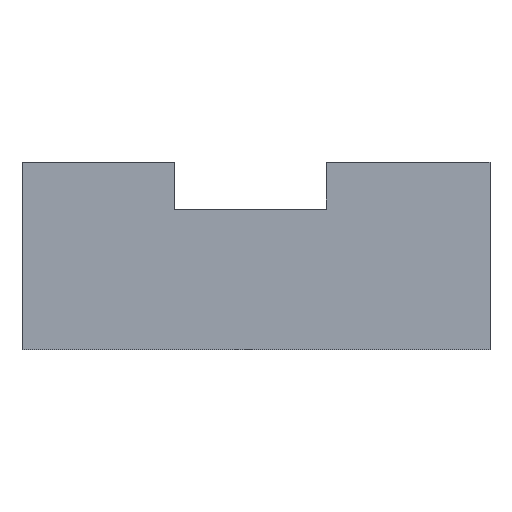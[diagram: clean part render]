
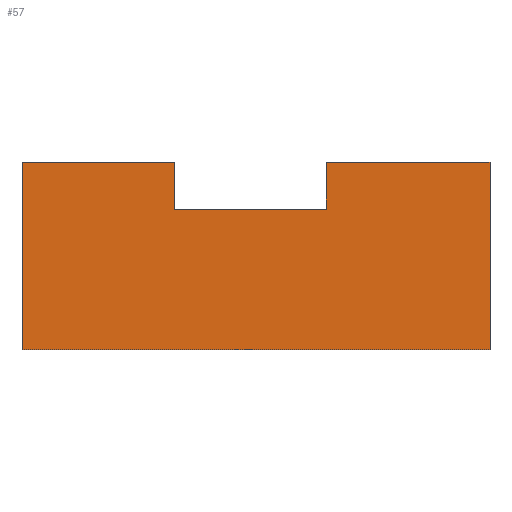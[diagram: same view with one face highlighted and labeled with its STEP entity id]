
A CAD part, top view. The second image highlights one B-rep face of the part: STEP entity #57.
In plain terms, the highlighted planar face has unit normal (0, 0, 1).
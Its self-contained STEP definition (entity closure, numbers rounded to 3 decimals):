
#57=ADVANCED_FACE('',(#75),#76,.T.);
#75=FACE_OUTER_BOUND('',#96,.T.);
#76=PLANE('',#97);
#96=EDGE_LOOP('',(#147,#148,#149,#150,#151,#152,#153,#154));
#97=AXIS2_PLACEMENT_3D('',#155,#156,#157);
#147=ORIENTED_EDGE('',*,*,#203,.T.);
#148=ORIENTED_EDGE('',*,*,#204,.T.);
#149=ORIENTED_EDGE('',*,*,#190,.F.);
#150=ORIENTED_EDGE('',*,*,#187,.T.);
#151=ORIENTED_EDGE('',*,*,#192,.T.);
#152=ORIENTED_EDGE('',*,*,#199,.T.);
#153=ORIENTED_EDGE('',*,*,#195,.F.);
#154=ORIENTED_EDGE('',*,*,#201,.T.);
#155=CARTESIAN_POINT('',(40.,22.0,5.));
#156=DIRECTION('',(0.,0.,1.0));
#157=DIRECTION('',(-1.0,0.,0.));
#187=EDGE_CURVE('',#209,#213,#215,.T.);
#190=EDGE_CURVE('',#209,#216,#220,.T.);
#192=EDGE_CURVE('',#213,#222,#224,.T.);
#195=EDGE_CURVE('',#227,#229,#230,.T.);
#199=EDGE_CURVE('',#222,#229,#235,.T.);
#201=EDGE_CURVE('',#227,#237,#239,.T.);
#203=EDGE_CURVE('',#237,#241,#242,.T.);
#204=EDGE_CURVE('',#241,#216,#243,.T.);
#209=VERTEX_POINT('',#249);
#213=VERTEX_POINT('',#255);
#215=LINE('',#258,#259);
#216=VERTEX_POINT('',#260);
#220=LINE('',#266,#267);
#222=VERTEX_POINT('',#269);
#224=LINE('',#272,#273);
#227=VERTEX_POINT('',#277);
#229=VERTEX_POINT('',#280);
#230=LINE('',#281,#282);
#235=LINE('',#290,#291);
#237=VERTEX_POINT('',#293);
#239=LINE('',#296,#297);
#241=VERTEX_POINT('',#300);
#242=LINE('',#301,#302);
#243=LINE('',#303,#304);
#249=CARTESIAN_POINT('',(27.,34.0,5.));
#255=CARTESIAN_POINT('',(14.0,34.0,5.));
#258=CARTESIAN_POINT('',(27.,34.0,5.));
#259=VECTOR('',#315,1.0);
#260=CARTESIAN_POINT('',(27.,38.0,5.));
#266=CARTESIAN_POINT('',(27.,36.0,5.));
#267=VECTOR('',#318,0.13);
#269=CARTESIAN_POINT('',(14.0,38.0,5.));
#272=CARTESIAN_POINT('',(14.0,36.0,5.));
#273=VECTOR('',#320,0.13);
#277=CARTESIAN_POINT('',(1.,22.0,5.));
#280=CARTESIAN_POINT('',(1.,38.0,5.));
#281=CARTESIAN_POINT('',(1.,36.0,5.));
#282=VECTOR('',#323,0.13);
#290=CARTESIAN_POINT('',(14.0,38.0,5.));
#291=VECTOR('',#327,1.);
#293=CARTESIAN_POINT('',(41.,22.0,5.));
#296=CARTESIAN_POINT('',(17.25,22.0,5.));
#297=VECTOR('',#329,1.0);
#300=CARTESIAN_POINT('',(41.,38.0,5.));
#301=CARTESIAN_POINT('',(41.,38.0,5.));
#302=VECTOR('',#331,1.0);
#303=CARTESIAN_POINT('',(40.,38.0,5.));
#304=VECTOR('',#332,1.0);
#315=DIRECTION('',(-1.0,0.,0.));
#318=DIRECTION('',(0.,1.0,0.));
#320=DIRECTION('',(0.,1.0,0.));
#323=DIRECTION('',(0.,1.0,0.));
#327=DIRECTION('',(-1.0,0.,0.));
#329=DIRECTION('',(1.0,0.,0.));
#331=DIRECTION('',(0.,1.0,0.0));
#332=DIRECTION('',(-1.0,0.,0.));
